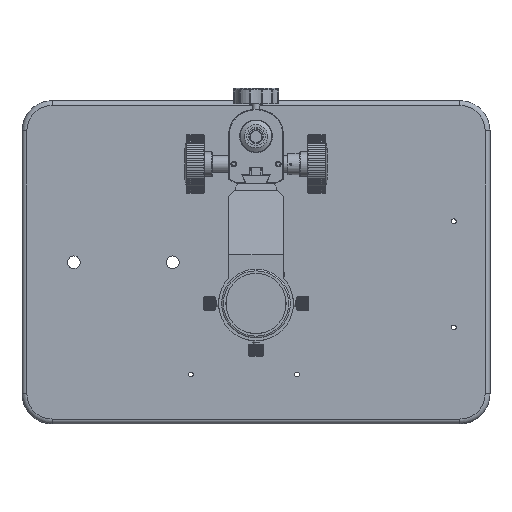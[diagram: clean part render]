
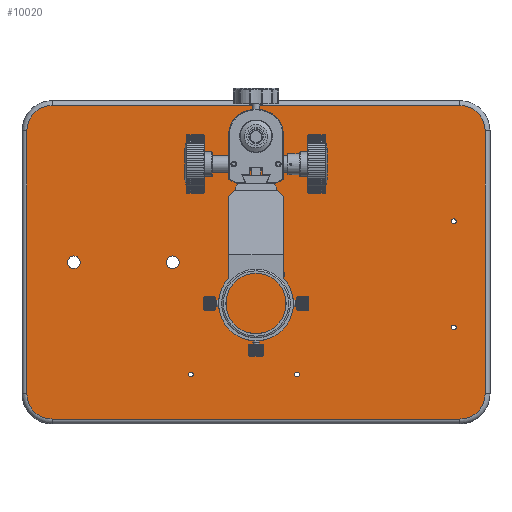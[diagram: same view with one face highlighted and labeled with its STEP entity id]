
A CAD part, top view. The second image highlights one B-rep face of the part: STEP entity #10020.
In plain terms, the highlighted planar face has unit normal (0, 0, 1).
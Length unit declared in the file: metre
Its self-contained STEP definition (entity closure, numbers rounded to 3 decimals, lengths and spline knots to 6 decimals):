
#10020=ADVANCED_FACE('0:29103',(#29293,#29294,#29295,#29296,#29297,#29298,#29299,#29300,#29301,#29302),#29303,.T.);
#10358=EDGE_CURVE('0:30462',#29825,#29822,#29826,.T.);
#10368=EDGE_CURVE('0:30465',#29822,#29836,#29839,.T.);
#10426=EDGE_CURVE('0:30456',#29925,#29922,#29926,.T.);
#10560=EDGE_CURVE('0:30453',#30116,#29925,#30119,.T.);
#10600=EDGE_CURVE('0:30459',#29922,#29825,#30178,.T.);
#10700=EDGE_CURVE('0:30426',#30321,#30321,#30322,.T.);
#10780=EDGE_CURVE('0:30432',#30433,#30433,#30434,.T.);
#10880=EDGE_CURVE('0:30450',#30572,#30116,#30575,.T.);
#11192=EDGE_CURVE('0:30417',#31009,#31009,#31010,.T.);
#11246=EDGE_CURVE('0:30438',#31081,#31081,#31082,.T.);
#11476=EDGE_CURVE('0:30468',#29836,#31375,#31378,.T.);
#11486=EDGE_CURVE('0:30429',#31391,#31391,#31392,.T.);
#11492=EDGE_CURVE('0:30447',#31400,#31400,#31401,.T.);
#11540=EDGE_CURVE('0:30471',#31375,#30572,#31460,.T.);
#11542=EDGE_CURVE('0:30420',#31462,#31462,#31463,.T.);
#11544=EDGE_CURVE('0:30423',#31465,#31465,#31466,.T.);
#11546=EDGE_CURVE('0:30441',#31468,#31468,#31469,.T.);
#29293=FACE_OUTER_BOUND('',#55707,.T.);
#29294=FACE_BOUND('',#55708,.T.);
#29295=FACE_BOUND('',#55709,.T.);
#29296=FACE_BOUND('',#55710,.T.);
#29297=FACE_BOUND('',#55711,.T.);
#29298=FACE_BOUND('',#55712,.T.);
#29299=FACE_BOUND('',#55713,.T.);
#29300=FACE_BOUND('',#55714,.T.);
#29301=FACE_BOUND('',#55715,.T.);
#29302=FACE_BOUND('',#55716,.T.);
#29303=PLANE('',#55717);
#29822=VERTEX_POINT('',#56421);
#29825=VERTEX_POINT('',#56425);
#29826=LINE('',#56426,#56427);
#29836=VERTEX_POINT('',#56442);
#29839=CIRCLE('',#56446,0.021);
#29922=VERTEX_POINT('',#56573);
#29925=VERTEX_POINT('',#56577);
#29926=LINE('',#56578,#56579);
#30116=VERTEX_POINT('',#56867);
#30119=CIRCLE('',#56871,0.021);
#30178=CIRCLE('',#56959,0.021);
#30321=VERTEX_POINT('',#57178);
#30322=CIRCLE('',#57179,0.002);
#30433=VERTEX_POINT('',#57355);
#30434=CIRCLE('',#57356,0.002);
#30572=VERTEX_POINT('',#57576);
#30575=LINE('',#57580,#57581);
#31009=VERTEX_POINT('',#58274);
#31010=CIRCLE('',#58275,0.002);
#31081=VERTEX_POINT('',#58396);
#31082=CIRCLE('',#58397,0.00525);
#31375=VERTEX_POINT('',#58889);
#31378=LINE('',#58893,#58894);
#31391=VERTEX_POINT('',#58913);
#31392=CIRCLE('',#58914,0.002);
#31400=VERTEX_POINT('',#58925);
#31401=CIRCLE('',#58926,0.00525);
#31460=CIRCLE('',#59029,0.021);
#31462=VERTEX_POINT('',#59032);
#31463=CIRCLE('',#59033,0.002);
#31465=VERTEX_POINT('',#59036);
#31466=CIRCLE('',#59037,0.002);
#31468=VERTEX_POINT('',#59040);
#31469=CIRCLE('',#59041,0.00525);
#55707=EDGE_LOOP('',(#146981,#146982,#146983,#146984,#146985,#146986,#146987,#146988));
#55708=EDGE_LOOP('',(#146989));
#55709=EDGE_LOOP('',(#146990));
#55710=EDGE_LOOP('',(#146991));
#55711=EDGE_LOOP('',(#146992));
#55712=EDGE_LOOP('',(#146993));
#55713=EDGE_LOOP('',(#146994));
#55714=EDGE_LOOP('',(#146995));
#55715=EDGE_LOOP('',(#146996));
#55716=EDGE_LOOP('',(#146997));
#55717=AXIS2_PLACEMENT_3D('',#146998,#146999,#147000);
#56421=CARTESIAN_POINT('',(0.19,0.109,0.026));
#56425=CARTESIAN_POINT('',(0.19,-0.109,0.026));
#56426=CARTESIAN_POINT('',(0.19,0.0,0.026));
#56427=VECTOR('',#148082,1.0);
#56442=CARTESIAN_POINT('',(0.169,0.13,0.026));
#56446=AXIS2_PLACEMENT_3D('',#148093,#148094,#148095);
#56573=CARTESIAN_POINT('',(0.169,-0.13,0.026));
#56577=CARTESIAN_POINT('',(-0.169,-0.13,0.026));
#56578=CARTESIAN_POINT('',(0.0,-0.13,0.026));
#56579=VECTOR('',#148148,1.0);
#56867=CARTESIAN_POINT('',(-0.19,-0.109,0.026));
#56871=AXIS2_PLACEMENT_3D('',#148283,#148284,#148285);
#56959=AXIS2_PLACEMENT_3D('',#148325,#148326,#148327);
#57178=CARTESIAN_POINT('',(0.036,-0.093,0.026));
#57179=AXIS2_PLACEMENT_3D('',#148423,#148424,#148425);
#57355=CARTESIAN_POINT('',(-0.008,0.049,0.026));
#57356=AXIS2_PLACEMENT_3D('',#148493,#148494,#148495);
#57576=CARTESIAN_POINT('',(-0.19,0.109,0.026));
#57580=CARTESIAN_POINT('',(-0.19,0.0,0.026));
#57581=VECTOR('',#148577,1.0);
#58274=CARTESIAN_POINT('',(0.166,-0.054,0.026));
#58275=AXIS2_PLACEMENT_3D('',#148837,#148838,#148839);
#58396=CARTESIAN_POINT('',(0.00525,0.104,0.026));
#58397=AXIS2_PLACEMENT_3D('',#148872,#148873,#148874);
#58889=CARTESIAN_POINT('',(-0.169,0.13,0.026));
#58893=CARTESIAN_POINT('',(0.0,0.13,0.026));
#58894=VECTOR('',#149047,1.0);
#58913=CARTESIAN_POINT('',(-0.052,-0.093,0.026));
#58914=AXIS2_PLACEMENT_3D('',#149058,#149059,#149060);
#58925=CARTESIAN_POINT('',(-0.14575,0.,0.026));
#58926=AXIS2_PLACEMENT_3D('',#149067,#149068,#149069);
#59029=AXIS2_PLACEMENT_3D('',#149099,#149100,#149101);
#59032=CARTESIAN_POINT('',(0.166,0.034,0.026));
#59033=AXIS2_PLACEMENT_3D('',#149102,#149103,#149104);
#59036=CARTESIAN_POINT('',(0.024,-0.01,0.026));
#59037=AXIS2_PLACEMENT_3D('',#149105,#149106,#149107);
#59040=CARTESIAN_POINT('',(-0.06375,0.,0.026));
#59041=AXIS2_PLACEMENT_3D('',#149108,#149109,#149110);
#146981=ORIENTED_EDGE('',*,*,#10880,.T.);
#146982=ORIENTED_EDGE('',*,*,#10560,.T.);
#146983=ORIENTED_EDGE('',*,*,#10426,.T.);
#146984=ORIENTED_EDGE('',*,*,#10600,.T.);
#146985=ORIENTED_EDGE('',*,*,#10358,.T.);
#146986=ORIENTED_EDGE('',*,*,#10368,.T.);
#146987=ORIENTED_EDGE('',*,*,#11476,.T.);
#146988=ORIENTED_EDGE('',*,*,#11540,.T.);
#146989=ORIENTED_EDGE('',*,*,#11192,.F.);
#146990=ORIENTED_EDGE('',*,*,#11542,.F.);
#146991=ORIENTED_EDGE('',*,*,#11544,.F.);
#146992=ORIENTED_EDGE('',*,*,#10700,.F.);
#146993=ORIENTED_EDGE('',*,*,#11486,.F.);
#146994=ORIENTED_EDGE('',*,*,#10780,.F.);
#146995=ORIENTED_EDGE('',*,*,#11546,.F.);
#146996=ORIENTED_EDGE('',*,*,#11492,.F.);
#146997=ORIENTED_EDGE('',*,*,#11246,.F.);
#146998=CARTESIAN_POINT('',(0.0,0.0,0.026));
#146999=DIRECTION('',(0.0,0.0,1.0));
#147000=DIRECTION('',(1.0,0.0,0.0));
#148082=DIRECTION('',(0.0,1.0,0.0));
#148093=CARTESIAN_POINT('',(0.169,0.109,0.026));
#148094=DIRECTION('',(0.0,0.0,1.0));
#148095=DIRECTION('',(1.0,0.0,-0.0));
#148148=DIRECTION('',(1.0,0.0,-0.0));
#148283=CARTESIAN_POINT('',(-0.169,-0.109,0.026));
#148284=DIRECTION('',(0.0,0.0,1.0));
#148285=DIRECTION('',(1.0,0.0,-0.0));
#148325=CARTESIAN_POINT('',(0.169,-0.109,0.026));
#148326=DIRECTION('',(0.0,0.0,1.0));
#148327=DIRECTION('',(1.0,0.0,-0.0));
#148423=CARTESIAN_POINT('',(0.034,-0.093,0.026));
#148424=DIRECTION('',(0.0,0.0,1.0));
#148425=DIRECTION('',(1.0,0.0,0.0));
#148493=CARTESIAN_POINT('',(-0.01,0.049,0.026));
#148494=DIRECTION('',(0.0,0.0,1.0));
#148495=DIRECTION('',(1.0,0.0,0.0));
#148577=DIRECTION('',(0.0,-1.0,0.0));
#148837=CARTESIAN_POINT('',(0.164,-0.054,0.026));
#148838=DIRECTION('',(0.0,0.0,1.0));
#148839=DIRECTION('',(1.0,0.0,0.0));
#148872=CARTESIAN_POINT('',(0.0,0.104,0.026));
#148873=DIRECTION('',(0.0,0.0,1.0));
#148874=DIRECTION('',(1.0,0.0,0.0));
#149047=DIRECTION('',(-1.0,0.0,0.0));
#149058=CARTESIAN_POINT('',(-0.054,-0.093,0.026));
#149059=DIRECTION('',(0.0,0.0,1.0));
#149060=DIRECTION('',(1.0,0.0,0.0));
#149067=CARTESIAN_POINT('',(-0.151,0.,0.026));
#149068=DIRECTION('',(0.0,0.0,1.0));
#149069=DIRECTION('',(1.0,0.0,0.0));
#149099=CARTESIAN_POINT('',(-0.169,0.109,0.026));
#149100=DIRECTION('',(0.0,0.0,1.0));
#149101=DIRECTION('',(1.0,0.0,-0.0));
#149102=CARTESIAN_POINT('',(0.164,0.034,0.026));
#149103=DIRECTION('',(0.0,0.0,1.0));
#149104=DIRECTION('',(1.0,0.0,0.0));
#149105=CARTESIAN_POINT('',(0.022,-0.01,0.026));
#149106=DIRECTION('',(0.0,0.0,1.0));
#149107=DIRECTION('',(1.0,0.0,0.0));
#149108=CARTESIAN_POINT('',(-0.069,0.,0.026));
#149109=DIRECTION('',(0.0,0.0,1.0));
#149110=DIRECTION('',(1.0,0.0,0.0));
